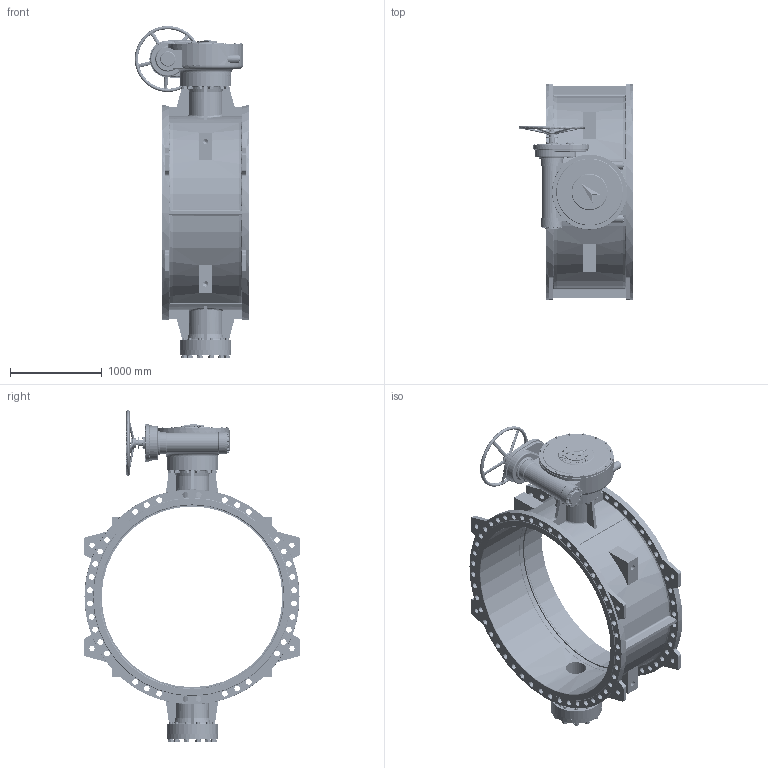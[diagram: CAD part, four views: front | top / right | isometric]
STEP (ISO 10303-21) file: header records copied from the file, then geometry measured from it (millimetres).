
FILE_DESCRIPTION (( 'STEP AP203' ), '1' );
FILE_NAME ('2000 16.STEP', '2014-11-06T06:41:57', ( '微软用户' ), ( '微软中国' ), 'SwSTEP 2.0', 'SolidWorks 2012', '' );
FILE_SCHEMA (( 'CONFIG_CONTROL_DESIGN' ));
Length unit declared in the file: millimetre
Products named in the file (36): 2000 16; GB-T5783 六角头螺栓M36-304_六角头螺栓M36X200; GB-T95 平垫圈-304_平垫圈33; GB-T93 ｵｯｻﾉｵ貶ｦ-304_ｵｯｻﾉｵ貶ｦ36; GB-T5783 六角头螺栓M36-304_六角头螺栓M36X180; 8#F48; GB-T5783 六角头螺栓M10-304_六角头螺栓M10X20; GB-T5783 六角头螺栓M8-304_六角头螺栓M8X25; -09 粣創傷裔; GB-T95 平垫圈-304_平垫圈10; GB-T93 ｵｯｻﾉｵ貶ｦ-304_ｵｯｻﾉｵ貶ｦ10; GB-T5783 六角头螺栓M10-304_六角头螺栓M10X35; GB-T5783 六角头螺栓M12-304_六角头螺栓M12X45; GB-T93 ｵｯｻﾉｵ貶ｦ-304_ｵｯｻﾉｵ貶ｦ12; GB-T95 平垫圈-304_平垫圈12; GB-T95 平垫圈-304_平垫圈16; GB-T93 ｵｯｻﾉｵ貶ｦ-304_ｵｯｻﾉｵ貶ｦ16; GB-T5783 六角头螺栓M16-304_六角头螺栓M16X55; GB-T5783 六角头螺栓M8-304_六角头螺栓M8X20; GB-T93 ｵｯｻﾉｵ貶ｦ-304_ｵｯｻﾉｵ貶ｦ8; GB-T95 平垫圈-304_平垫圈8; -10 垫圈; -01 忒謫; ﾁ羮2^8#F48; -02 萇雄蟀諉釱; -03 癹弇蹟邡裔; -02 硌尨啣; -04 埴翐眊裔; -05 喘謫眊裔躇猾菜; -07 埴翐喘謫眊极; -05 綴傷裔; -07躇猾菜; -01 恘謫眊裔; F48眊极; 2000 16 綴傷裔; 2000 16 概极_揤坫阨盄
Assembly tree (261 placements, depth 3):
  2000 16
    2000 16 概极_揤坫阨盄
    2000 16 綴傷裔
    8#F48
      F48眊极
      -01 恘謫眊裔
      -07躇猾菜  x2
      -05 綴傷裔
      -07 埴翐喘謫眊极
      -05 喘謫眊裔躇猾菜
      -04 埴翐眊裔
      -02 硌尨啣
      -03 癹弇蹟邡裔  x2
      -02 萇雄蟀諉釱
      ﾁ羮2^8#F48
      -01 忒謫
      -10 垫圈
      GB-T95 平垫圈-304_平垫圈8  x12
      GB-T93 ｵｯｻﾉｵ貶ｦ-304_ｵｯｻﾉｵ貶ｦ8  x12
      GB-T5783 六角头螺栓M8-304_六角头螺栓M8X20  x8
      GB-T5783 六角头螺栓M16-304_六角头螺栓M16X55  x12
      GB-T93 ｵｯｻﾉｵ貶ｦ-304_ｵｯｻﾉｵ貶ｦ16  x12
      GB-T95 平垫圈-304_平垫圈16  x12
      GB-T95 平垫圈-304_平垫圈12  x16
      GB-T93 ｵｯｻﾉｵ貶ｦ-304_ｵｯｻﾉｵ貶ｦ12  x16
      GB-T5783 六角头螺栓M12-304_六角头螺栓M12X45  x16
      GB-T5783 六角头螺栓M10-304_六角头螺栓M10X35  x17
      GB-T93 ｵｯｻﾉｵ貶ｦ-304_ｵｯｻﾉｵ貶ｦ10  x19
      GB-T95 平垫圈-304_平垫圈10  x12
      -09 粣創傷裔
      GB-T5783 六角头螺栓M8-304_六角头螺栓M8X25  x4
      GB-T5783 六角头螺栓M10-304_六角头螺栓M10X20  x2
    GB-T5783 六角头螺栓M36-304_六角头螺栓M36X180  x12
    GB-T93 ｵｯｻﾉｵ貶ｦ-304_ｵｯｻﾉｵ貶ｦ36  x24
    GB-T95 平垫圈-304_平垫圈33  x24
    GB-T5783 六角头螺栓M36-304_六角头螺栓M36X200  x12
Bounding box: 1246.66 x 2355 x 3619.87 mm (x, y, z)
Volume: 580447234.2 mm3; surface area: 30551754.6 mm2
Topology: 260 solids, 260 shells, 4572 faces, 11205 edges, 7239 vertices
Faces by surface type: cylinder 2211, plane 1781, cone 280, bspline 166, torus 134
Entity records: 109753 total; most frequent: CARTESIAN_POINT 36705, DIRECTION 13792, ORIENTED_EDGE 12674, EDGE_CURVE 6337, AXIS2_PLACEMENT_3D 5521, VERTEX_POINT 4125, EDGE_LOOP 3210, CIRCLE 2941
